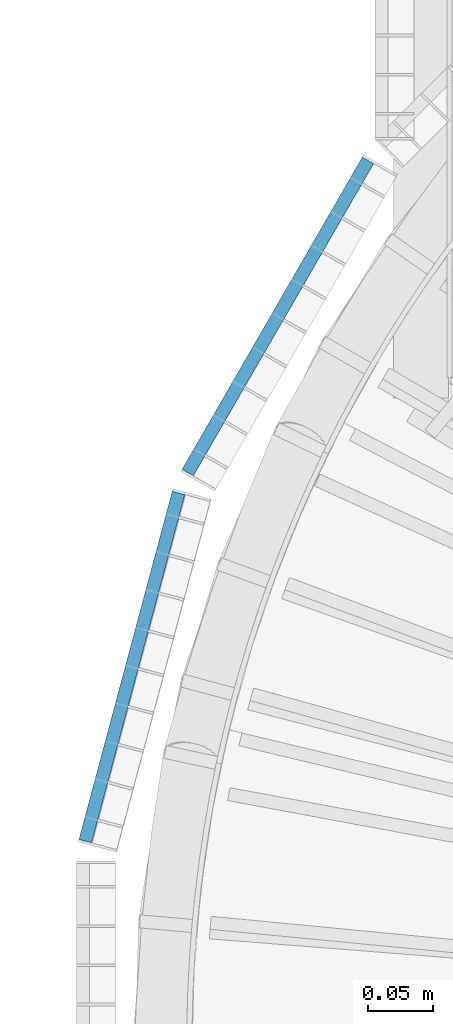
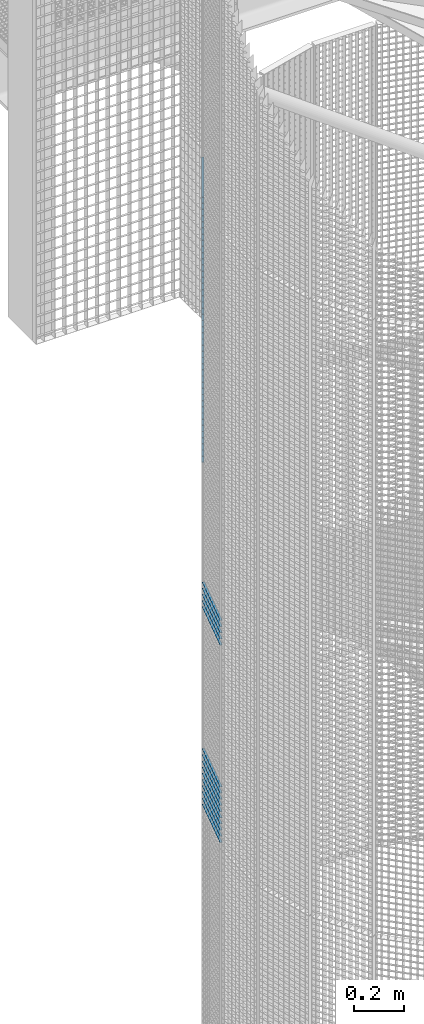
# One storey, part 201 of 1148: 59 beams, 2 elements without a shape of their own.
"""IFC2X3 building model written with IfcOpenShell, lengths in millimetres."""

import ifcopenshell
import ifcopenshell.guid

model = None  # the IFC model being written
_history = None  # IfcOwnerHistory: only IFC2X3 demands one
_inside = {}  # id of a spatial element -> (the spatial element, [elements in it])
_under = {}  # id of a project, library or spatial element -> (it, [spatial elements below it])
_declared = {}  # id of a project -> (the project, [libraries it declares])
_typed = {}  # id of a type object -> (the type object, [elements of that type])
_made_of = {}  # id of a material, layer set ... -> (it, [elements and type objects made of it])


def new_model(schema):
    """Start an empty IFC model of exactly this schema.

    Asked for "IFC4X3", IfcOpenShell would pick the latest addendum, in which some entities
    have other attributes; the version numbers below select the first issue.
    IFC2X3 requires an IfcOwnerHistory on every rooted entity: one is made here for all.
    """
    global model, _history
    if schema == "IFC4X3":
        model = ifcopenshell.file(schema_version=(4, 3, 0, 0))
    else:
        model = ifcopenshell.file(schema=schema)
    _inside.clear()
    _under.clear()
    _declared.clear()
    _typed.clear()
    _made_of.clear()
    _history = None
    if model.schema == "IFC2X3":
        org = make("IfcOrganization", Name="unknown")
        user = make(
            "IfcPersonAndOrganization",
            ThePerson=make("IfcPerson", FamilyName="unknown"),
            TheOrganization=org,
        )
        app = make(
            "IfcApplication",
            ApplicationDeveloper=org,
            Version="unknown",
            ApplicationFullName="unknown",
            ApplicationIdentifier="unknown",
        )
        _history = make(
            "IfcOwnerHistory",
            OwningUser=user,
            OwningApplication=app,
            ChangeAction="ADDED",
            CreationDate=0,
        )
    return model


def make(cls, **values):
    """One entity of the class cls with the attributes given. An attribute that is None is left unset."""
    return model.create_entity(
        cls, **{name: value for name, value in values.items() if value is not None}
    )


def rooted(cls, **values):
    """An entity with a GlobalId (a new one), such as an element, a storey or a relation."""
    return make(cls, GlobalId=ifcopenshell.guid.new(), OwnerHistory=_history, **values)


def si_unit(unit_type, name, prefix=None):
    """IfcSIUnit, for example si_unit("LENGTHUNIT", "METRE", prefix="MILLI")."""
    return make("IfcSIUnit", UnitType=unit_type, Prefix=prefix, Name=name)


def assignment(units):
    """IfcUnitAssignment: the units of a project."""
    return None if units is None else make("IfcUnitAssignment", Units=units)


def point(xyz):
    """IfcCartesianPoint."""
    return None if xyz is None else make("IfcCartesianPoint", Coordinates=xyz)


def direction(xyz):
    """IfcDirection."""
    return None if xyz is None else make("IfcDirection", DirectionRatios=xyz)


def frame(location, z_axis=None, x_axis=None):
    """IfcAxis2Placement3D, a coordinate frame: its origin and axes. An axis left out is left unset."""
    return make(
        "IfcAxis2Placement3D",
        Location=point(location),
        Axis=direction(z_axis),
        RefDirection=direction(x_axis),
    )


def frame_2d(location, x_axis=None):
    """IfcAxis2Placement2D, a coordinate frame in the plane: its origin and x axis."""
    return make(
        "IfcAxis2Placement2D", Location=point(location), RefDirection=direction(x_axis)
    )


def origin_with_axes():
    """The frame at (0, 0, 0) with the z axis (0, 0, 1) and the x axis (1, 0, 0) written out."""
    return frame((0.0, 0.0, 0.0), z_axis=(0.0, 0.0, 1.0), x_axis=(1.0, 0.0, 0.0))


def origin_2d_with_axis():
    """The frame at (0, 0) in the plane with the x axis (1, 0) written out."""
    return frame_2d((0.0, 0.0), x_axis=(1.0, 0.0))


def place(relative_to, where):
    """IfcLocalPlacement: puts the frame where relative to a parent placement (None: the world)."""
    return make(
        "IfcLocalPlacement", PlacementRelTo=relative_to, RelativePlacement=where
    )


def context(
    kind, dimensions, precision=None, world=None, true_north=None, identifier=None
):
    """IfcGeometricRepresentationContext, for example the 3D "Model" context."""
    return make(
        "IfcGeometricRepresentationContext",
        ContextIdentifier=identifier,
        ContextType=kind,
        CoordinateSpaceDimension=dimensions,
        Precision=precision,
        WorldCoordinateSystem=world,
        TrueNorth=true_north,
    )


def subcontext(parent, identifier, kind, view, scale=None):
    """IfcGeometricRepresentationSubContext, for example "Body" below "Model"."""
    return make(
        "IfcGeometricRepresentationSubContext",
        ContextIdentifier=identifier,
        ContextType=kind,
        ParentContext=parent,
        TargetScale=scale,
        TargetView=view,
    )


def project(units=None, contexts=None):
    """IfcProject with its units and contexts."""
    return rooted(
        "IfcProject",
        Name="project",
        RepresentationContexts=contexts,
        UnitsInContext=assignment(units),
    )


def spatial(cls, under=None, at=None, **own):
    """A site, building, storey or space (cls), placed at a placement, below another one or the project."""
    s = rooted(cls, ObjectPlacement=at, **own)
    if under is not None:
        _under.setdefault(under.id(), (under, []))[1].append(s)
    return s


def profile(cls, at=None, kind="AREA", **sizes):
    """A parametric profile (cls). Its sizes go by their IFC names, for example OverallWidth=200.0."""
    return make(cls, ProfileType=kind, Position=at, **sizes)


def rectangle(**sizes):
    """IfcRectangleProfileDef."""
    return profile("IfcRectangleProfileDef", **sizes)


def extrude(swept, where, along, depth):
    """IfcExtrudedAreaSolid: the profile swept, set in the frame where, extruded along a direction by depth."""
    return make(
        "IfcExtrudedAreaSolid",
        SweptArea=swept,
        Position=where,
        ExtrudedDirection=direction(along),
        Depth=depth,
    )


def shape(context_of_items, identifier, shape_type, items):
    """IfcShapeRepresentation: the items that make up one representation, for example the "Body"."""
    return make(
        "IfcShapeRepresentation",
        ContextOfItems=context_of_items,
        RepresentationIdentifier=identifier,
        RepresentationType=shape_type,
        Items=items,
    )


def material(Name=None, Category=None):
    """IfcMaterial."""
    return make("IfcMaterial", Name=Name, Category=Category)


def made_of(thing, what):
    """Note that an element or type object is made of a material, layer set ...; save() writes the relation."""
    if what is not None:
        _made_of.setdefault(what.id(), (what, []))[1].append(thing)
    return thing


def type_object(cls, material=None, **own):
    """A type object (cls), such as IfcWallType, which elements share."""
    return made_of(rooted(cls, **own), material)


def element(
    cls,
    number,
    at=None,
    inside=None,
    cuts=None,
    type_object=None,
    material=None,
    context=None,
    identifier="Body",
    shape_type=None,
    held_by="IfcProductDefinitionShape",
    body=None,
    shapes=None,
    **own,
):
    """One element of the class cls, such as IfcWall. Its Tag is "e" and its number.

    at: its placement. inside: the storey or other place that contains it. cuts: it is an
    opening in that element (IfcRelVoidsElement). A single representation is given by context,
    identifier, shape_type and body (its items); several are given by shapes. held_by: the class
    of the entity that holds the representations. save() writes the other relations.
    """
    e = rooted(cls, Tag="e%d" % number, ObjectPlacement=at, **own)
    if body is not None:
        shapes = [shape(context, identifier, shape_type, body)]
    if shapes is not None:
        e.Representation = make(held_by, Representations=shapes)
    if inside is not None:
        _inside.setdefault(inside.id(), (inside, []))[1].append(e)
    if cuts is not None:
        rooted(
            "IfcRelVoidsElement", RelatingBuildingElement=cuts, RelatedOpeningElement=e
        )
    if type_object is not None:
        _typed.setdefault(type_object.id(), (type_object, []))[1].append(e)
    return made_of(e, material)


def aggregate(whole, parts):
    """IfcRelAggregates: a whole, such as a stair, and the parts it consists of."""
    return rooted("IfcRelAggregates", RelatingObject=whole, RelatedObjects=parts)


def save(model, path):
    """Write the relations noted so far, then the file.

    IfcRelAggregates (storeys below a building ...), IfcRelContainedInSpatialStructure (elements
    in a storey), IfcRelDefinesByType, IfcRelAssociatesMaterial and IfcRelDeclares: one each for
    every whole, place, type object, material and project.
    """
    for whole, parts in _under.values():
        aggregate(whole, parts)
    for where, things in _inside.values():
        rooted(
            "IfcRelContainedInSpatialStructure",
            RelatedElements=things,
            RelatingStructure=where,
        )
    for kind, things in _typed.values():
        rooted("IfcRelDefinesByType", RelatedObjects=things, RelatingType=kind)
    for what, things in _made_of.values():
        rooted("IfcRelAssociatesMaterial", RelatedObjects=things, RelatingMaterial=what)
    for by, libraries in _declared.values():
        rooted("IfcRelDeclares", RelatingContext=by, RelatedDefinitions=libraries)
    model.write(path)


model = new_model("IFC2X3")

# Units and contexts
model_context = context("Model", 3, precision=1e-05, world=origin_with_axes())
body_context = subcontext(model_context, "Body", "Model", "MODEL_VIEW")
ifc_project = project(units=[si_unit("LENGTHUNIT", "METRE", prefix="MILLI"), si_unit("AREAUNIT", "SQUARE_METRE"), si_unit("VOLUMEUNIT", "CUBIC_METRE"), si_unit("MASSUNIT", "GRAM", prefix="KILO"), si_unit("TIMEUNIT", "SECOND"), si_unit("PLANEANGLEUNIT", "RADIAN"), si_unit("SOLIDANGLEUNIT", "STERADIAN"), si_unit("THERMODYNAMICTEMPERATUREUNIT", "DEGREE_CELSIUS"), si_unit("LUMINOUSINTENSITYUNIT", "LUMEN")], contexts=[model_context])

# Site, building, storey
site_placement = place(None, origin_with_axes())
site = spatial("IfcSite", under=ifc_project, at=site_placement, Name="Undefined", CompositionType="ELEMENT")
building_placement = place(site_placement, origin_with_axes())
building = spatial("IfcBuilding", under=site, at=building_placement, Name="Undefined", CompositionType="ELEMENT")
storey_placement = place(building_placement, origin_with_axes())
storey = spatial("IfcBuildingStorey", under=building, at=storey_placement, Name="Undefined", CompositionType="ELEMENT", Elevation=0.0)

# Assembly, beams
assembly_1_placement = place(storey_placement, origin_with_axes())
assembly_1 = element("IfcElementAssembly", 1, at=assembly_1_placement, inside=storey, Name="BORDURE", AssemblyPlace="NOTDEFINED", PredefinedType="NOTDEFINED")
ifc_material = material(Name="STEEL/S235JR")
beam_type = type_object("IfcBeamType", Name="PL2*10", PredefinedType="NOTDEFINED")
beam_1_placement = place(assembly_1_placement, frame((-1040.30888419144, 421.618038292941, 3300.0), z_axis=(-0.965925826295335, 0.258819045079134, 0.0), x_axis=(-0.258819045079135, -0.965925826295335, 0.0)))
beam_1 = element("IfcBeam", 2, at=beam_1_placement, type_object=beam_type, material=ifc_material, Name="ENTRETOISE", context=body_context, shape_type="SweptSolid", body=[
    extrude(rectangle(XDim=2.0, YDim=10.0, at=origin_2d_with_axis()), frame((275.999999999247, 9.09494701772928e-13, 1.53210777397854e-14), z_axis=(-1.0, 0.0, 0.0), x_axis=(0.0, -1.0, 0.0)), (0.0, 0.0, 1.0), 276.0),
])
beam_2_placement = place(assembly_1_placement, frame((-1040.30888419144, 421.618038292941, 3270.0), z_axis=(-0.965925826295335, 0.258819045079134, 0.0), x_axis=(-0.258819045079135, -0.965925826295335, 0.0)))
beam_2 = element("IfcBeam", 3, at=beam_2_placement, type_object=beam_type, material=ifc_material, Name="ENTRETOISE", context=body_context, shape_type="SweptSolid", body=[
    extrude(rectangle(XDim=2.0, YDim=10.0, at=origin_2d_with_axis()), frame((275.999999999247, 9.09494701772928e-13, 1.53210777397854e-14), z_axis=(-1.0, 0.0, 0.0), x_axis=(0.0, -1.0, 0.0)), (0.0, 0.0, 1.0), 276.0),
])
beam_3_placement = place(assembly_1_placement, frame((-1040.30888419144, 421.618038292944, 3990.0), z_axis=(-0.965925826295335, 0.258819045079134, 0.0), x_axis=(-0.258819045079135, -0.965925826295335, 0.0)))
beam_3 = element("IfcBeam", 4, at=beam_3_placement, type_object=beam_type, material=ifc_material, Name="ENTRETOISE", context=body_context, shape_type="SweptSolid", body=[
    extrude(rectangle(XDim=2.0, YDim=10.0, at=origin_2d_with_axis()), frame((275.999999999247, 9.09494701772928e-13, 1.53210777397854e-14), z_axis=(-1.0, 0.0, 0.0), x_axis=(0.0, -1.0, 0.0)), (0.0, 0.0, 1.0), 276.0),
])
beam_4_placement = place(assembly_1_placement, frame((-1040.30888419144, 421.618038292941, 3240.0), z_axis=(-0.965925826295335, 0.258819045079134, 0.0), x_axis=(-0.258819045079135, -0.965925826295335, 0.0)))
beam_4 = element("IfcBeam", 5, at=beam_4_placement, type_object=beam_type, material=ifc_material, Name="ENTRETOISE", context=body_context, shape_type="SweptSolid", body=[
    extrude(rectangle(XDim=2.0, YDim=10.0, at=origin_2d_with_axis()), frame((275.999999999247, 9.09494701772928e-13, 1.53210777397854e-14), z_axis=(-1.0, 0.0, 0.0), x_axis=(0.0, -1.0, 0.0)), (0.0, 0.0, 1.0), 276.0),
])
beam_5_placement = place(assembly_1_placement, frame((-1040.30888419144, 421.618038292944, 4020.0), z_axis=(-0.965925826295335, 0.258819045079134, 0.0), x_axis=(-0.258819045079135, -0.965925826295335, 0.0)))
beam_5 = element("IfcBeam", 6, at=beam_5_placement, type_object=beam_type, material=ifc_material, Name="ENTRETOISE", context=body_context, shape_type="SweptSolid", body=[
    extrude(rectangle(XDim=2.0, YDim=10.0, at=origin_2d_with_axis()), frame((275.999999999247, 9.09494701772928e-13, 1.53210777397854e-14), z_axis=(-1.0, 0.0, 0.0), x_axis=(0.0, -1.0, 0.0)), (0.0, 0.0, 1.0), 276.0),
])
beam_6_placement = place(assembly_1_placement, frame((-1040.30888419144, 421.618038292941, 3210.0), z_axis=(-0.965925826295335, 0.258819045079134, 0.0), x_axis=(-0.258819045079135, -0.965925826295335, 0.0)))
beam_6 = element("IfcBeam", 7, at=beam_6_placement, type_object=beam_type, material=ifc_material, Name="ENTRETOISE", context=body_context, shape_type="SweptSolid", body=[
    extrude(rectangle(XDim=2.0, YDim=10.0, at=origin_2d_with_axis()), frame((275.999999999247, 9.09494701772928e-13, 1.53210777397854e-14), z_axis=(-1.0, 0.0, 0.0), x_axis=(0.0, -1.0, 0.0)), (0.0, 0.0, 1.0), 276.0),
])
beam_7_placement = place(assembly_1_placement, frame((-1040.30888419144, 421.618038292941, 3180.0), z_axis=(-0.965925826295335, 0.258819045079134, 0.0), x_axis=(-0.258819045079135, -0.965925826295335, 0.0)))
beam_7 = element("IfcBeam", 8, at=beam_7_placement, type_object=beam_type, material=ifc_material, Name="ENTRETOISE", context=body_context, shape_type="SweptSolid", body=[
    extrude(rectangle(XDim=2.0, YDim=10.0, at=origin_2d_with_axis()), frame((275.999999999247, 9.09494701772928e-13, 1.53210777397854e-14), z_axis=(-1.0, 0.0, 0.0), x_axis=(0.0, -1.0, 0.0)), (0.0, 0.0, 1.0), 276.0),
])
beam_8_placement = place(assembly_1_placement, frame((-1040.30888419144, 421.618038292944, 4050.0), z_axis=(-0.965925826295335, 0.258819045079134, 0.0), x_axis=(-0.258819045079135, -0.965925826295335, 0.0)))
beam_8 = element("IfcBeam", 9, at=beam_8_placement, type_object=beam_type, material=ifc_material, Name="ENTRETOISE", context=body_context, shape_type="SweptSolid", body=[
    extrude(rectangle(XDim=2.0, YDim=10.0, at=origin_2d_with_axis()), frame((275.999999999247, 9.09494701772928e-13, 1.53210777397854e-14), z_axis=(-1.0, 0.0, 0.0), x_axis=(0.0, -1.0, 0.0)), (0.0, 0.0, 1.0), 276.0),
])
beam_9_placement = place(assembly_1_placement, frame((-1040.30888419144, 421.618038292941, 3150.0), z_axis=(-0.965925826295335, 0.258819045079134, 0.0), x_axis=(-0.258819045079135, -0.965925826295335, 0.0)))
beam_9 = element("IfcBeam", 10, at=beam_9_placement, type_object=beam_type, material=ifc_material, Name="ENTRETOISE", context=body_context, shape_type="SweptSolid", body=[
    extrude(rectangle(XDim=2.0, YDim=10.0, at=origin_2d_with_axis()), frame((275.999999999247, 9.09494701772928e-13, 1.53210777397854e-14), z_axis=(-1.0, 0.0, 0.0), x_axis=(0.0, -1.0, 0.0)), (0.0, 0.0, 1.0), 276.0),
])
beam_10_placement = place(assembly_1_placement, frame((-1040.30888419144, 421.618038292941, 3120.0), z_axis=(-0.965925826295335, 0.258819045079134, 0.0), x_axis=(-0.258819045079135, -0.965925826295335, 0.0)))
beam_10 = element("IfcBeam", 11, at=beam_10_placement, type_object=beam_type, material=ifc_material, Name="ENTRETOISE", context=body_context, shape_type="SweptSolid", body=[
    extrude(rectangle(XDim=2.0, YDim=10.0, at=origin_2d_with_axis()), frame((275.999999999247, 9.09494701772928e-13, 1.53210777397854e-14), z_axis=(-1.0, 0.0, 0.0), x_axis=(0.0, -1.0, 0.0)), (0.0, 0.0, 1.0), 276.0),
])
beam_11_placement = place(assembly_1_placement, frame((-1040.30888419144, 421.618038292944, 4080.0), z_axis=(-0.965925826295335, 0.258819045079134, 0.0), x_axis=(-0.258819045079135, -0.965925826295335, 0.0)))
beam_11 = element("IfcBeam", 12, at=beam_11_placement, type_object=beam_type, material=ifc_material, Name="ENTRETOISE", context=body_context, shape_type="SweptSolid", body=[
    extrude(rectangle(XDim=2.0, YDim=10.0, at=origin_2d_with_axis()), frame((275.999999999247, 9.09494701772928e-13, 1.53210777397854e-14), z_axis=(-1.0, 0.0, 0.0), x_axis=(0.0, -1.0, 0.0)), (0.0, 0.0, 1.0), 276.0),
])
beam_12_placement = place(assembly_1_placement, frame((-1040.30888419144, 421.618038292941, 3090.0), z_axis=(-0.965925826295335, 0.258819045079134, 0.0), x_axis=(-0.258819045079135, -0.965925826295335, 0.0)))
beam_12 = element("IfcBeam", 13, at=beam_12_placement, type_object=beam_type, material=ifc_material, Name="ENTRETOISE", context=body_context, shape_type="SweptSolid", body=[
    extrude(rectangle(XDim=2.0, YDim=10.0, at=origin_2d_with_axis()), frame((275.999999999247, 9.09494701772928e-13, 1.53210777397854e-14), z_axis=(-1.0, 0.0, 0.0), x_axis=(0.0, -1.0, 0.0)), (0.0, 0.0, 1.0), 276.0),
])
beam_13_placement = place(assembly_1_placement, frame((-1040.30888419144, 421.618038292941, 3060.0), z_axis=(-0.965925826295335, 0.258819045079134, 0.0), x_axis=(-0.258819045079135, -0.965925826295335, 0.0)))
beam_13 = element("IfcBeam", 14, at=beam_13_placement, type_object=beam_type, material=ifc_material, Name="ENTRETOISE", context=body_context, shape_type="SweptSolid", body=[
    extrude(rectangle(XDim=2.0, YDim=10.0, at=origin_2d_with_axis()), frame((275.999999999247, 9.09494701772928e-13, 1.53210777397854e-14), z_axis=(-1.0, 0.0, 0.0), x_axis=(0.0, -1.0, 0.0)), (0.0, 0.0, 1.0), 276.0),
])
beam_14_placement = place(assembly_1_placement, frame((-1040.30888419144, 421.618038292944, 4110.0), z_axis=(-0.965925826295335, 0.258819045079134, 0.0), x_axis=(-0.258819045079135, -0.965925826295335, 0.0)))
beam_14 = element("IfcBeam", 15, at=beam_14_placement, type_object=beam_type, material=ifc_material, Name="ENTRETOISE", context=body_context, shape_type="SweptSolid", body=[
    extrude(rectangle(XDim=2.0, YDim=10.0, at=origin_2d_with_axis()), frame((275.999999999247, 9.09494701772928e-13, 1.53210777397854e-14), z_axis=(-1.0, 0.0, 0.0), x_axis=(0.0, -1.0, 0.0)), (0.0, 0.0, 1.0), 276.0),
])
beam_15_placement = place(assembly_1_placement, frame((-1040.30888419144, 421.618038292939, 3030.0), z_axis=(-0.965925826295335, 0.258819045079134, 0.0), x_axis=(-0.258819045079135, -0.965925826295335, 0.0)))
beam_15 = element("IfcBeam", 16, at=beam_15_placement, type_object=beam_type, material=ifc_material, Name="ENTRETOISE", context=body_context, shape_type="SweptSolid", body=[
    extrude(rectangle(XDim=2.0, YDim=10.0, at=origin_2d_with_axis()), frame((275.999999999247, 9.09494701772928e-13, 1.53210777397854e-14), z_axis=(-1.0, 0.0, 0.0), x_axis=(0.0, -1.0, 0.0)), (0.0, 0.0, 1.0), 276.0),
])
aggregate(assembly_1, [beam_1, beam_2, beam_3, beam_4, beam_5, beam_6, beam_7, beam_8, beam_9, beam_10, beam_11, beam_12, beam_13, beam_14, beam_15])

assembly_2_placement = place(storey_placement, origin_with_axes())
assembly_2 = element("IfcElementAssembly", 17, at=assembly_2_placement, inside=storey, Name="BORDURE", AssemblyPlace="NOTDEFINED", PredefinedType="NOTDEFINED")
beam_16_placement = place(assembly_2_placement, frame((-895.303964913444, 676.248044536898, 5970.0), z_axis=(-0.866025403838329, 0.499999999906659, 0.0), x_axis=(-0.49999999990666, -0.866025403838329, 0.0)))
beam_16 = element("IfcBeam", 18, at=beam_16_placement, type_object=beam_type, material=ifc_material, Name="ENTRETOISE", context=body_context, shape_type="SweptSolid", body=[
    extrude(rectangle(XDim=2.0, YDim=10.0, at=origin_2d_with_axis()), frame((275.999999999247, 9.09494701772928e-13, 1.53210777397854e-14), z_axis=(-1.0, 0.0, 0.0), x_axis=(0.0, -1.0, 0.0)), (0.0, 0.0, 1.0), 276.0),
])
beam_17_placement = place(assembly_2_placement, frame((-895.303964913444, 676.248044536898, 5940.0), z_axis=(-0.866025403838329, 0.499999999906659, 0.0), x_axis=(-0.49999999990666, -0.866025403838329, 0.0)))
beam_17 = element("IfcBeam", 19, at=beam_17_placement, type_object=beam_type, material=ifc_material, Name="ENTRETOISE", context=body_context, shape_type="SweptSolid", body=[
    extrude(rectangle(XDim=2.0, YDim=10.0, at=origin_2d_with_axis()), frame((275.999999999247, 9.09494701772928e-13, 1.53210777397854e-14), z_axis=(-1.0, 0.0, 0.0), x_axis=(0.0, -1.0, 0.0)), (0.0, 0.0, 1.0), 276.0),
])
beam_18_placement = place(assembly_2_placement, frame((-895.303964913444, 676.248044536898, 5910.0), z_axis=(-0.866025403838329, 0.499999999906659, 0.0), x_axis=(-0.49999999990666, -0.866025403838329, 0.0)))
beam_18 = element("IfcBeam", 20, at=beam_18_placement, type_object=beam_type, material=ifc_material, Name="ENTRETOISE", context=body_context, shape_type="SweptSolid", body=[
    extrude(rectangle(XDim=2.0, YDim=10.0, at=origin_2d_with_axis()), frame((275.999999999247, 9.09494701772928e-13, 1.53210777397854e-14), z_axis=(-1.0, 0.0, 0.0), x_axis=(0.0, -1.0, 0.0)), (0.0, 0.0, 1.0), 276.0),
])
beam_19_placement = place(assembly_2_placement, frame((-895.303964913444, 676.248044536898, 5880.0), z_axis=(-0.866025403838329, 0.499999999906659, 0.0), x_axis=(-0.49999999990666, -0.866025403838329, 0.0)))
beam_19 = element("IfcBeam", 21, at=beam_19_placement, type_object=beam_type, material=ifc_material, Name="ENTRETOISE", context=body_context, shape_type="SweptSolid", body=[
    extrude(rectangle(XDim=2.0, YDim=10.0, at=origin_2d_with_axis()), frame((275.999999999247, 9.09494701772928e-13, 1.53210777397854e-14), z_axis=(-1.0, 0.0, 0.0), x_axis=(0.0, -1.0, 0.0)), (0.0, 0.0, 1.0), 276.0),
])
beam_20_placement = place(assembly_2_placement, frame((-895.303964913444, 676.248044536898, 5850.0), z_axis=(-0.866025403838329, 0.499999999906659, 0.0), x_axis=(-0.49999999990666, -0.866025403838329, 0.0)))
beam_20 = element("IfcBeam", 22, at=beam_20_placement, type_object=beam_type, material=ifc_material, Name="ENTRETOISE", context=body_context, shape_type="SweptSolid", body=[
    extrude(rectangle(XDim=2.0, YDim=10.0, at=origin_2d_with_axis()), frame((275.999999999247, 9.09494701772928e-13, 1.53210777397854e-14), z_axis=(-1.0, 0.0, 0.0), x_axis=(0.0, -1.0, 0.0)), (0.0, 0.0, 1.0), 276.0),
])
beam_21_placement = place(assembly_2_placement, frame((-895.303964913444, 676.248044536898, 5820.0), z_axis=(-0.866025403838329, 0.499999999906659, 0.0), x_axis=(-0.49999999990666, -0.866025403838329, 0.0)))
beam_21 = element("IfcBeam", 23, at=beam_21_placement, type_object=beam_type, material=ifc_material, Name="ENTRETOISE", context=body_context, shape_type="SweptSolid", body=[
    extrude(rectangle(XDim=2.0, YDim=10.0, at=origin_2d_with_axis()), frame((275.999999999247, 9.09494701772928e-13, 1.53210777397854e-14), z_axis=(-1.0, 0.0, 0.0), x_axis=(0.0, -1.0, 0.0)), (0.0, 0.0, 1.0), 276.0),
])
beam_22_placement = place(assembly_2_placement, frame((-895.303964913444, 676.248044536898, 5790.0), z_axis=(-0.866025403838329, 0.499999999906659, 0.0), x_axis=(-0.49999999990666, -0.866025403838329, 0.0)))
beam_22 = element("IfcBeam", 24, at=beam_22_placement, type_object=beam_type, material=ifc_material, Name="ENTRETOISE", context=body_context, shape_type="SweptSolid", body=[
    extrude(rectangle(XDim=2.0, YDim=10.0, at=origin_2d_with_axis()), frame((275.999999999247, 9.09494701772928e-13, 1.53210777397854e-14), z_axis=(-1.0, 0.0, 0.0), x_axis=(0.0, -1.0, 0.0)), (0.0, 0.0, 1.0), 276.0),
])
beam_23_placement = place(assembly_2_placement, frame((-895.303964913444, 676.248044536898, 5760.0), z_axis=(-0.866025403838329, 0.499999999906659, 0.0), x_axis=(-0.49999999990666, -0.866025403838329, 0.0)))
beam_23 = element("IfcBeam", 25, at=beam_23_placement, type_object=beam_type, material=ifc_material, Name="ENTRETOISE", context=body_context, shape_type="SweptSolid", body=[
    extrude(rectangle(XDim=2.0, YDim=10.0, at=origin_2d_with_axis()), frame((275.999999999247, 9.09494701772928e-13, 1.53210777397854e-14), z_axis=(-1.0, 0.0, 0.0), x_axis=(0.0, -1.0, 0.0)), (0.0, 0.0, 1.0), 276.0),
])
beam_24_placement = place(assembly_2_placement, frame((-895.303964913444, 676.248044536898, 5730.0), z_axis=(-0.866025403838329, 0.499999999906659, 0.0), x_axis=(-0.49999999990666, -0.866025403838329, 0.0)))
beam_24 = element("IfcBeam", 26, at=beam_24_placement, type_object=beam_type, material=ifc_material, Name="ENTRETOISE", context=body_context, shape_type="SweptSolid", body=[
    extrude(rectangle(XDim=2.0, YDim=10.0, at=origin_2d_with_axis()), frame((275.999999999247, 9.09494701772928e-13, 1.53210777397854e-14), z_axis=(-1.0, 0.0, 0.0), x_axis=(0.0, -1.0, 0.0)), (0.0, 0.0, 1.0), 276.0),
])
beam_25_placement = place(assembly_2_placement, frame((-895.303964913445, 676.248044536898, 5700.0), z_axis=(-0.866025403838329, 0.499999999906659, 0.0), x_axis=(-0.49999999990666, -0.866025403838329, 0.0)))
beam_25 = element("IfcBeam", 27, at=beam_25_placement, type_object=beam_type, material=ifc_material, Name="ENTRETOISE", context=body_context, shape_type="SweptSolid", body=[
    extrude(rectangle(XDim=2.0, YDim=10.0, at=origin_2d_with_axis()), frame((275.999999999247, 9.09494701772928e-13, 1.53210777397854e-14), z_axis=(-1.0, 0.0, 0.0), x_axis=(0.0, -1.0, 0.0)), (0.0, 0.0, 1.0), 276.0),
])
beam_26_placement = place(assembly_2_placement, frame((-895.303964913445, 676.248044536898, 5670.0), z_axis=(-0.866025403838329, 0.499999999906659, 0.0), x_axis=(-0.49999999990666, -0.866025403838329, 0.0)))
beam_26 = element("IfcBeam", 28, at=beam_26_placement, type_object=beam_type, material=ifc_material, Name="ENTRETOISE", context=body_context, shape_type="SweptSolid", body=[
    extrude(rectangle(XDim=2.0, YDim=10.0, at=origin_2d_with_axis()), frame((275.999999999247, 9.09494701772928e-13, 1.53210777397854e-14), z_axis=(-1.0, 0.0, 0.0), x_axis=(0.0, -1.0, 0.0)), (0.0, 0.0, 1.0), 276.0),
])
beam_27_placement = place(assembly_2_placement, frame((-895.303964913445, 676.248044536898, 5640.0), z_axis=(-0.866025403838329, 0.499999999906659, 0.0), x_axis=(-0.49999999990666, -0.866025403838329, 0.0)))
beam_27 = element("IfcBeam", 29, at=beam_27_placement, type_object=beam_type, material=ifc_material, Name="ENTRETOISE", context=body_context, shape_type="SweptSolid", body=[
    extrude(rectangle(XDim=2.0, YDim=10.0, at=origin_2d_with_axis()), frame((275.999999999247, 9.09494701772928e-13, 1.53210777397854e-14), z_axis=(-1.0, 0.0, 0.0), x_axis=(0.0, -1.0, 0.0)), (0.0, 0.0, 1.0), 276.0),
])
beam_28_placement = place(assembly_2_placement, frame((-895.303964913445, 676.248044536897, 5610.0), z_axis=(-0.866025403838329, 0.499999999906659, 0.0), x_axis=(-0.49999999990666, -0.866025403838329, 0.0)))
beam_28 = element("IfcBeam", 30, at=beam_28_placement, type_object=beam_type, material=ifc_material, Name="ENTRETOISE", context=body_context, shape_type="SweptSolid", body=[
    extrude(rectangle(XDim=2.0, YDim=10.0, at=origin_2d_with_axis()), frame((275.999999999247, 9.09494701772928e-13, 1.53210777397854e-14), z_axis=(-1.0, 0.0, 0.0), x_axis=(0.0, -1.0, 0.0)), (0.0, 0.0, 1.0), 276.0),
])
beam_29_placement = place(assembly_2_placement, frame((-895.303964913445, 676.248044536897, 5580.0), z_axis=(-0.866025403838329, 0.499999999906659, 0.0), x_axis=(-0.49999999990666, -0.866025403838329, 0.0)))
beam_29 = element("IfcBeam", 31, at=beam_29_placement, type_object=beam_type, material=ifc_material, Name="ENTRETOISE", context=body_context, shape_type="SweptSolid", body=[
    extrude(rectangle(XDim=2.0, YDim=10.0, at=origin_2d_with_axis()), frame((275.999999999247, 9.09494701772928e-13, 1.53210777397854e-14), z_axis=(-1.0, 0.0, 0.0), x_axis=(0.0, -1.0, 0.0)), (0.0, 0.0, 1.0), 276.0),
])
beam_30_placement = place(assembly_2_placement, frame((-895.303964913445, 676.248044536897, 5550.0), z_axis=(-0.866025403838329, 0.499999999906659, 0.0), x_axis=(-0.49999999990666, -0.866025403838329, 0.0)))
beam_30 = element("IfcBeam", 32, at=beam_30_placement, type_object=beam_type, material=ifc_material, Name="ENTRETOISE", context=body_context, shape_type="SweptSolid", body=[
    extrude(rectangle(XDim=2.0, YDim=10.0, at=origin_2d_with_axis()), frame((275.999999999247, 9.09494701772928e-13, 1.53210777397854e-14), z_axis=(-1.0, 0.0, 0.0), x_axis=(0.0, -1.0, 0.0)), (0.0, 0.0, 1.0), 276.0),
])
beam_31_placement = place(assembly_2_placement, frame((-895.303964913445, 676.248044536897, 5520.0), z_axis=(-0.866025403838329, 0.499999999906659, 0.0), x_axis=(-0.49999999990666, -0.866025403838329, 0.0)))
beam_31 = element("IfcBeam", 33, at=beam_31_placement, type_object=beam_type, material=ifc_material, Name="ENTRETOISE", context=body_context, shape_type="SweptSolid", body=[
    extrude(rectangle(XDim=2.0, YDim=10.0, at=origin_2d_with_axis()), frame((275.999999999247, 9.09494701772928e-13, 1.53210777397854e-14), z_axis=(-1.0, 0.0, 0.0), x_axis=(0.0, -1.0, 0.0)), (0.0, 0.0, 1.0), 276.0),
])
beam_32_placement = place(assembly_2_placement, frame((-895.303964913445, 676.248044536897, 5490.0), z_axis=(-0.866025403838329, 0.499999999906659, 0.0), x_axis=(-0.49999999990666, -0.866025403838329, 0.0)))
beam_32 = element("IfcBeam", 34, at=beam_32_placement, type_object=beam_type, material=ifc_material, Name="ENTRETOISE", context=body_context, shape_type="SweptSolid", body=[
    extrude(rectangle(XDim=2.0, YDim=10.0, at=origin_2d_with_axis()), frame((275.999999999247, 9.09494701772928e-13, 1.53210777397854e-14), z_axis=(-1.0, 0.0, 0.0), x_axis=(0.0, -1.0, 0.0)), (0.0, 0.0, 1.0), 276.0),
])
beam_33_placement = place(assembly_2_placement, frame((-895.303964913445, 676.248044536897, 5460.0), z_axis=(-0.866025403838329, 0.499999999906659, 0.0), x_axis=(-0.49999999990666, -0.866025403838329, 0.0)))
beam_33 = element("IfcBeam", 35, at=beam_33_placement, type_object=beam_type, material=ifc_material, Name="ENTRETOISE", context=body_context, shape_type="SweptSolid", body=[
    extrude(rectangle(XDim=2.0, YDim=10.0, at=origin_2d_with_axis()), frame((275.999999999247, 9.09494701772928e-13, 1.53210777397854e-14), z_axis=(-1.0, 0.0, 0.0), x_axis=(0.0, -1.0, 0.0)), (0.0, 0.0, 1.0), 276.0),
])
beam_34_placement = place(assembly_2_placement, frame((-895.303964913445, 676.248044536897, 5430.0), z_axis=(-0.866025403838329, 0.499999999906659, 0.0), x_axis=(-0.49999999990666, -0.866025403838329, 0.0)))
beam_34 = element("IfcBeam", 36, at=beam_34_placement, type_object=beam_type, material=ifc_material, Name="ENTRETOISE", context=body_context, shape_type="SweptSolid", body=[
    extrude(rectangle(XDim=2.0, YDim=10.0, at=origin_2d_with_axis()), frame((275.999999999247, 9.09494701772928e-13, 1.53210777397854e-14), z_axis=(-1.0, 0.0, 0.0), x_axis=(0.0, -1.0, 0.0)), (0.0, 0.0, 1.0), 276.0),
])
beam_35_placement = place(assembly_2_placement, frame((-895.303964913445, 676.248044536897, 5400.0), z_axis=(-0.866025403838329, 0.499999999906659, 0.0), x_axis=(-0.49999999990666, -0.866025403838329, 0.0)))
beam_35 = element("IfcBeam", 37, at=beam_35_placement, type_object=beam_type, material=ifc_material, Name="ENTRETOISE", context=body_context, shape_type="SweptSolid", body=[
    extrude(rectangle(XDim=2.0, YDim=10.0, at=origin_2d_with_axis()), frame((275.999999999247, 9.09494701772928e-13, 1.53210777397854e-14), z_axis=(-1.0, 0.0, 0.0), x_axis=(0.0, -1.0, 0.0)), (0.0, 0.0, 1.0), 276.0),
])
beam_36_placement = place(assembly_2_placement, frame((-895.303964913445, 676.248044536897, 5370.0), z_axis=(-0.866025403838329, 0.499999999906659, 0.0), x_axis=(-0.49999999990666, -0.866025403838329, 0.0)))
beam_36 = element("IfcBeam", 38, at=beam_36_placement, type_object=beam_type, material=ifc_material, Name="ENTRETOISE", context=body_context, shape_type="SweptSolid", body=[
    extrude(rectangle(XDim=2.0, YDim=10.0, at=origin_2d_with_axis()), frame((275.999999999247, 9.09494701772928e-13, 1.53210777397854e-14), z_axis=(-1.0, 0.0, 0.0), x_axis=(0.0, -1.0, 0.0)), (0.0, 0.0, 1.0), 276.0),
])
beam_37_placement = place(assembly_2_placement, frame((-895.303964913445, 676.248044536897, 5340.0), z_axis=(-0.866025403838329, 0.499999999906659, 0.0), x_axis=(-0.49999999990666, -0.866025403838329, 0.0)))
beam_37 = element("IfcBeam", 39, at=beam_37_placement, type_object=beam_type, material=ifc_material, Name="ENTRETOISE", context=body_context, shape_type="SweptSolid", body=[
    extrude(rectangle(XDim=2.0, YDim=10.0, at=origin_2d_with_axis()), frame((275.999999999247, 9.09494701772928e-13, 1.53210777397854e-14), z_axis=(-1.0, 0.0, 0.0), x_axis=(0.0, -1.0, 0.0)), (0.0, 0.0, 1.0), 276.0),
])
beam_38_placement = place(assembly_2_placement, frame((-895.303964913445, 676.248044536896, 5310.0), z_axis=(-0.866025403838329, 0.499999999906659, 0.0), x_axis=(-0.49999999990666, -0.866025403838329, 0.0)))
beam_38 = element("IfcBeam", 40, at=beam_38_placement, type_object=beam_type, material=ifc_material, Name="ENTRETOISE", context=body_context, shape_type="SweptSolid", body=[
    extrude(rectangle(XDim=2.0, YDim=10.0, at=origin_2d_with_axis()), frame((275.999999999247, 9.09494701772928e-13, 1.53210777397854e-14), z_axis=(-1.0, 0.0, 0.0), x_axis=(0.0, -1.0, 0.0)), (0.0, 0.0, 1.0), 276.0),
])
beam_39_placement = place(assembly_2_placement, frame((-895.303964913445, 676.248044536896, 5280.0), z_axis=(-0.866025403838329, 0.499999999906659, 0.0), x_axis=(-0.49999999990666, -0.866025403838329, 0.0)))
beam_39 = element("IfcBeam", 41, at=beam_39_placement, type_object=beam_type, material=ifc_material, Name="ENTRETOISE", context=body_context, shape_type="SweptSolid", body=[
    extrude(rectangle(XDim=2.0, YDim=10.0, at=origin_2d_with_axis()), frame((275.999999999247, 9.09494701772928e-13, 1.53210777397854e-14), z_axis=(-1.0, 0.0, 0.0), x_axis=(0.0, -1.0, 0.0)), (0.0, 0.0, 1.0), 276.0),
])
beam_40_placement = place(assembly_2_placement, frame((-895.303964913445, 676.248044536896, 5250.0), z_axis=(-0.866025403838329, 0.499999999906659, 0.0), x_axis=(-0.49999999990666, -0.866025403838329, 0.0)))
beam_40 = element("IfcBeam", 42, at=beam_40_placement, type_object=beam_type, material=ifc_material, Name="ENTRETOISE", context=body_context, shape_type="SweptSolid", body=[
    extrude(rectangle(XDim=2.0, YDim=10.0, at=origin_2d_with_axis()), frame((275.999999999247, 9.09494701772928e-13, 1.53210777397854e-14), z_axis=(-1.0, 0.0, 0.0), x_axis=(0.0, -1.0, 0.0)), (0.0, 0.0, 1.0), 276.0),
])
beam_41_placement = place(assembly_2_placement, frame((-895.303964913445, 676.248044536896, 5220.0), z_axis=(-0.866025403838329, 0.499999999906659, 0.0), x_axis=(-0.49999999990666, -0.866025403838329, 0.0)))
beam_41 = element("IfcBeam", 43, at=beam_41_placement, type_object=beam_type, material=ifc_material, Name="ENTRETOISE", context=body_context, shape_type="SweptSolid", body=[
    extrude(rectangle(XDim=2.0, YDim=10.0, at=origin_2d_with_axis()), frame((275.999999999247, 9.09494701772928e-13, 1.53210777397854e-14), z_axis=(-1.0, 0.0, 0.0), x_axis=(0.0, -1.0, 0.0)), (0.0, 0.0, 1.0), 276.0),
])
beam_42_placement = place(assembly_2_placement, frame((-895.303964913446, 676.248044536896, 5190.0), z_axis=(-0.866025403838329, 0.499999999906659, 0.0), x_axis=(-0.49999999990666, -0.866025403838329, 0.0)))
beam_42 = element("IfcBeam", 44, at=beam_42_placement, type_object=beam_type, material=ifc_material, Name="ENTRETOISE", context=body_context, shape_type="SweptSolid", body=[
    extrude(rectangle(XDim=2.0, YDim=10.0, at=origin_2d_with_axis()), frame((275.999999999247, 9.09494701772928e-13, 1.53210777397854e-14), z_axis=(-1.0, 0.0, 0.0), x_axis=(0.0, -1.0, 0.0)), (0.0, 0.0, 1.0), 276.0),
])
beam_43_placement = place(assembly_2_placement, frame((-895.303964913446, 676.248044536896, 5160.0), z_axis=(-0.866025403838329, 0.499999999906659, 0.0), x_axis=(-0.49999999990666, -0.866025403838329, 0.0)))
beam_43 = element("IfcBeam", 45, at=beam_43_placement, type_object=beam_type, material=ifc_material, Name="ENTRETOISE", context=body_context, shape_type="SweptSolid", body=[
    extrude(rectangle(XDim=2.0, YDim=10.0, at=origin_2d_with_axis()), frame((275.999999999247, 9.09494701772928e-13, 1.53210777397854e-14), z_axis=(-1.0, 0.0, 0.0), x_axis=(0.0, -1.0, 0.0)), (0.0, 0.0, 1.0), 276.0),
])
beam_44_placement = place(assembly_2_placement, frame((-895.303964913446, 676.248044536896, 5130.0), z_axis=(-0.866025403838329, 0.499999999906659, 0.0), x_axis=(-0.49999999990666, -0.866025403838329, 0.0)))
beam_44 = element("IfcBeam", 46, at=beam_44_placement, type_object=beam_type, material=ifc_material, Name="ENTRETOISE", context=body_context, shape_type="SweptSolid", body=[
    extrude(rectangle(XDim=2.0, YDim=10.0, at=origin_2d_with_axis()), frame((275.999999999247, 9.09494701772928e-13, 1.53210777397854e-14), z_axis=(-1.0, 0.0, 0.0), x_axis=(0.0, -1.0, 0.0)), (0.0, 0.0, 1.0), 276.0),
])
beam_45_placement = place(assembly_2_placement, frame((-895.303964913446, 676.248044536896, 5100.0), z_axis=(-0.866025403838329, 0.499999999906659, 0.0), x_axis=(-0.49999999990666, -0.866025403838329, 0.0)))
beam_45 = element("IfcBeam", 47, at=beam_45_placement, type_object=beam_type, material=ifc_material, Name="ENTRETOISE", context=body_context, shape_type="SweptSolid", body=[
    extrude(rectangle(XDim=2.0, YDim=10.0, at=origin_2d_with_axis()), frame((275.999999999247, 9.09494701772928e-13, 1.53210777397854e-14), z_axis=(-1.0, 0.0, 0.0), x_axis=(0.0, -1.0, 0.0)), (0.0, 0.0, 1.0), 276.0),
])
beam_46_placement = place(assembly_2_placement, frame((-895.303964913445, 676.248044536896, 5070.0), z_axis=(-0.866025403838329, 0.499999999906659, 0.0), x_axis=(-0.49999999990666, -0.866025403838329, 0.0)))
beam_46 = element("IfcBeam", 48, at=beam_46_placement, type_object=beam_type, material=ifc_material, Name="ENTRETOISE", context=body_context, shape_type="SweptSolid", body=[
    extrude(rectangle(XDim=2.0, YDim=10.0, at=origin_2d_with_axis()), frame((275.999999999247, 9.09494701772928e-13, 1.53210777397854e-14), z_axis=(-1.0, 0.0, 0.0), x_axis=(0.0, -1.0, 0.0)), (0.0, 0.0, 1.0), 276.0),
])
beam_47_placement = place(assembly_2_placement, frame((-895.303964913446, 676.248044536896, 5040.0), z_axis=(-0.866025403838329, 0.499999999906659, 0.0), x_axis=(-0.49999999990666, -0.866025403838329, 0.0)))
beam_47 = element("IfcBeam", 49, at=beam_47_placement, type_object=beam_type, material=ifc_material, Name="ENTRETOISE", context=body_context, shape_type="SweptSolid", body=[
    extrude(rectangle(XDim=2.0, YDim=10.0, at=origin_2d_with_axis()), frame((275.999999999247, 9.09494701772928e-13, 1.53210777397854e-14), z_axis=(-1.0, 0.0, 0.0), x_axis=(0.0, -1.0, 0.0)), (0.0, 0.0, 1.0), 276.0),
])
beam_48_placement = place(assembly_2_placement, frame((-895.303964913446, 676.248044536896, 5010.0), z_axis=(-0.866025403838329, 0.499999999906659, 0.0), x_axis=(-0.49999999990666, -0.866025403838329, 0.0)))
beam_48 = element("IfcBeam", 50, at=beam_48_placement, type_object=beam_type, material=ifc_material, Name="ENTRETOISE", context=body_context, shape_type="SweptSolid", body=[
    extrude(rectangle(XDim=2.0, YDim=10.0, at=origin_2d_with_axis()), frame((275.999999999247, 9.09494701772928e-13, 1.53210777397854e-14), z_axis=(-1.0, 0.0, 0.0), x_axis=(0.0, -1.0, 0.0)), (0.0, 0.0, 1.0), 276.0),
])
beam_49_placement = place(assembly_2_placement, frame((-895.303964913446, 676.248044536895, 4980.0), z_axis=(-0.866025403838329, 0.499999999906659, 0.0), x_axis=(-0.49999999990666, -0.866025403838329, 0.0)))
beam_49 = element("IfcBeam", 51, at=beam_49_placement, type_object=beam_type, material=ifc_material, Name="ENTRETOISE", context=body_context, shape_type="SweptSolid", body=[
    extrude(rectangle(XDim=2.0, YDim=10.0, at=origin_2d_with_axis()), frame((275.999999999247, 9.09494701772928e-13, 1.53210777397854e-14), z_axis=(-1.0, 0.0, 0.0), x_axis=(0.0, -1.0, 0.0)), (0.0, 0.0, 1.0), 276.0),
])
beam_50_placement = place(assembly_2_placement, frame((-895.303964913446, 676.248044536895, 4950.0), z_axis=(-0.866025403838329, 0.499999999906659, 0.0), x_axis=(-0.49999999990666, -0.866025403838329, 0.0)))
beam_50 = element("IfcBeam", 52, at=beam_50_placement, type_object=beam_type, material=ifc_material, Name="ENTRETOISE", context=body_context, shape_type="SweptSolid", body=[
    extrude(rectangle(XDim=2.0, YDim=10.0, at=origin_2d_with_axis()), frame((275.999999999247, 9.09494701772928e-13, 1.53210777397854e-14), z_axis=(-1.0, 0.0, 0.0), x_axis=(0.0, -1.0, 0.0)), (0.0, 0.0, 1.0), 276.0),
])
beam_51_placement = place(assembly_2_placement, frame((-895.303964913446, 676.248044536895, 4920.0), z_axis=(-0.866025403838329, 0.499999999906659, 0.0), x_axis=(-0.49999999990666, -0.866025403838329, 0.0)))
beam_51 = element("IfcBeam", 53, at=beam_51_placement, type_object=beam_type, material=ifc_material, Name="ENTRETOISE", context=body_context, shape_type="SweptSolid", body=[
    extrude(rectangle(XDim=2.0, YDim=10.0, at=origin_2d_with_axis()), frame((275.999999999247, 9.09494701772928e-13, 1.53210777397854e-14), z_axis=(-1.0, 0.0, 0.0), x_axis=(0.0, -1.0, 0.0)), (0.0, 0.0, 1.0), 276.0),
])
beam_52_placement = place(assembly_2_placement, frame((-895.303964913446, 676.248044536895, 4890.0), z_axis=(-0.866025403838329, 0.499999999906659, 0.0), x_axis=(-0.49999999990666, -0.866025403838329, 0.0)))
beam_52 = element("IfcBeam", 54, at=beam_52_placement, type_object=beam_type, material=ifc_material, Name="ENTRETOISE", context=body_context, shape_type="SweptSolid", body=[
    extrude(rectangle(XDim=2.0, YDim=10.0, at=origin_2d_with_axis()), frame((275.999999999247, 9.09494701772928e-13, 1.53210777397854e-14), z_axis=(-1.0, 0.0, 0.0), x_axis=(0.0, -1.0, 0.0)), (0.0, 0.0, 1.0), 276.0),
])
beam_53_placement = place(assembly_2_placement, frame((-895.303964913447, 676.248044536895, 4860.0), z_axis=(-0.866025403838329, 0.499999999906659, 0.0), x_axis=(-0.49999999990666, -0.866025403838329, 0.0)))
beam_53 = element("IfcBeam", 55, at=beam_53_placement, type_object=beam_type, material=ifc_material, Name="ENTRETOISE", context=body_context, shape_type="SweptSolid", body=[
    extrude(rectangle(XDim=2.0, YDim=10.0, at=origin_2d_with_axis()), frame((275.999999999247, 9.09494701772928e-13, 1.53210777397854e-14), z_axis=(-1.0, 0.0, 0.0), x_axis=(0.0, -1.0, 0.0)), (0.0, 0.0, 1.0), 276.0),
])
beam_54_placement = place(assembly_2_placement, frame((-895.303964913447, 676.248044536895, 4830.0), z_axis=(-0.866025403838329, 0.499999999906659, 0.0), x_axis=(-0.49999999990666, -0.866025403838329, 0.0)))
beam_54 = element("IfcBeam", 56, at=beam_54_placement, type_object=beam_type, material=ifc_material, Name="ENTRETOISE", context=body_context, shape_type="SweptSolid", body=[
    extrude(rectangle(XDim=2.0, YDim=10.0, at=origin_2d_with_axis()), frame((275.999999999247, 9.09494701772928e-13, 1.53210777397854e-14), z_axis=(-1.0, 0.0, 0.0), x_axis=(0.0, -1.0, 0.0)), (0.0, 0.0, 1.0), 276.0),
])
beam_55_placement = place(assembly_2_placement, frame((-895.303964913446, 676.248044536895, 4800.0), z_axis=(-0.866025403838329, 0.499999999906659, 0.0), x_axis=(-0.49999999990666, -0.866025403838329, 0.0)))
beam_55 = element("IfcBeam", 57, at=beam_55_placement, type_object=beam_type, material=ifc_material, Name="ENTRETOISE", context=body_context, shape_type="SweptSolid", body=[
    extrude(rectangle(XDim=2.0, YDim=10.0, at=origin_2d_with_axis()), frame((275.999999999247, 9.09494701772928e-13, 1.53210777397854e-14), z_axis=(-1.0, 0.0, 0.0), x_axis=(0.0, -1.0, 0.0)), (0.0, 0.0, 1.0), 276.0),
])
beam_56_placement = place(assembly_2_placement, frame((-895.303964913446, 676.248044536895, 4770.0), z_axis=(-0.866025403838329, 0.499999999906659, 0.0), x_axis=(-0.49999999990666, -0.866025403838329, 0.0)))
beam_56 = element("IfcBeam", 58, at=beam_56_placement, type_object=beam_type, material=ifc_material, Name="ENTRETOISE", context=body_context, shape_type="SweptSolid", body=[
    extrude(rectangle(XDim=2.0, YDim=10.0, at=origin_2d_with_axis()), frame((275.999999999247, 9.09494701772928e-13, 1.53210777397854e-14), z_axis=(-1.0, 0.0, 0.0), x_axis=(0.0, -1.0, 0.0)), (0.0, 0.0, 1.0), 276.0),
])
beam_57_placement = place(assembly_2_placement, frame((-895.303964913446, 676.248044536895, 4740.0), z_axis=(-0.866025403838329, 0.499999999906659, 0.0), x_axis=(-0.49999999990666, -0.866025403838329, 0.0)))
beam_57 = element("IfcBeam", 59, at=beam_57_placement, type_object=beam_type, material=ifc_material, Name="ENTRETOISE", context=body_context, shape_type="SweptSolid", body=[
    extrude(rectangle(XDim=2.0, YDim=10.0, at=origin_2d_with_axis()), frame((275.999999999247, 9.09494701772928e-13, 1.53210777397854e-14), z_axis=(-1.0, 0.0, 0.0), x_axis=(0.0, -1.0, 0.0)), (0.0, 0.0, 1.0), 276.0),
])
beam_58_placement = place(assembly_2_placement, frame((-895.303964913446, 676.248044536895, 4710.0), z_axis=(-0.866025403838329, 0.499999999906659, 0.0), x_axis=(-0.49999999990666, -0.866025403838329, 0.0)))
beam_58 = element("IfcBeam", 60, at=beam_58_placement, type_object=beam_type, material=ifc_material, Name="ENTRETOISE", context=body_context, shape_type="SweptSolid", body=[
    extrude(rectangle(XDim=2.0, YDim=10.0, at=origin_2d_with_axis()), frame((275.999999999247, 9.09494701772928e-13, 1.53210777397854e-14), z_axis=(-1.0, 0.0, 0.0), x_axis=(0.0, -1.0, 0.0)), (0.0, 0.0, 1.0), 276.0),
])
beam_59_placement = place(assembly_2_placement, frame((-895.303964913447, 676.248044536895, 4680.0), z_axis=(-0.866025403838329, 0.499999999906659, 0.0), x_axis=(-0.49999999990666, -0.866025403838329, 0.0)))
beam_59 = element("IfcBeam", 61, at=beam_59_placement, type_object=beam_type, material=ifc_material, Name="ENTRETOISE", context=body_context, shape_type="SweptSolid", body=[
    extrude(rectangle(XDim=2.0, YDim=10.0, at=origin_2d_with_axis()), frame((275.999999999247, 9.09494701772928e-13, 1.53210777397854e-14), z_axis=(-1.0, 0.0, 0.0), x_axis=(0.0, -1.0, 0.0)), (0.0, 0.0, 1.0), 276.0),
])
aggregate(assembly_2, [beam_16, beam_17, beam_18, beam_19, beam_20, beam_21, beam_22, beam_23, beam_24, beam_25, beam_26, beam_27, beam_28, beam_29, beam_30, beam_31, beam_32, beam_33, beam_34, beam_35, beam_36, beam_37, beam_38, beam_39, beam_40, beam_41, beam_42, beam_43, beam_44, beam_45, beam_46, beam_47, beam_48, beam_49, beam_50, beam_51, beam_52, beam_53, beam_54, beam_55, beam_56, beam_57, beam_58, beam_59])

save(model, "model.ifc")
